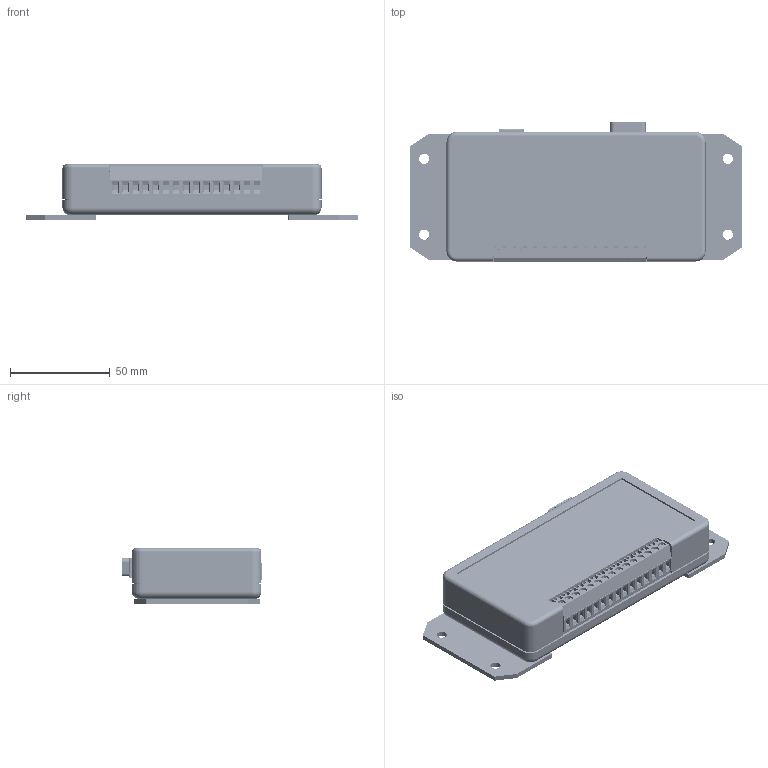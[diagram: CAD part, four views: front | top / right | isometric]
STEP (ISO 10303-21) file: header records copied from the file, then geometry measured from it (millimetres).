
FILE_DESCRIPTION (( 'STEP AP214' ), '1' );
FILE_NAME ('ADU Serial, Flange.STEP', '2018-09-24T19:31:53', ( '' ), ( '' ), 'SwSTEP 2.0', 'SolidWorks 2014', '' );
FILE_SCHEMA (( 'AUTOMOTIVE_DESIGN' ));
Length unit declared in the file: millimetre
Products named in the file (11): Mounting Bracket ADU; 94510A240_BRASS SCREW-TO-EXPAND INSERTS FOR PLASTICS_94510A240; ADU Top; USB; 182-009-113; Wieland_25.163.0353.0_CAD STEP data; 90380A106_PHILLIPS THREAD-FORMING SCREW FOR PLASTIC_90380A106; PCB; ADU Base; ADU Serial, Flange; 91420A128_METRIC FLAT HEAD PHILLIPS MACHINE SCREW_91420A128
Assembly tree (24 placements, depth 2):
  ADU Serial, Flange
    ADU Base
    PCB
    90380A106_PHILLIPS THREAD-FORMING SCREW FOR PLASTIC_90380A106  x4
    Wieland_25.163.0353.0_CAD STEP data  x5
    182-009-113
    USB
    ADU Top
    94510A240_BRASS SCREW-TO-EXPAND INSERTS FOR PLASTICS_94510A240  x4
    Mounting Bracket ADU  x2
    91420A128_METRIC FLAT HEAD PHILLIPS MACHINE SCREW_91420A128  x4
Bounding box: 166.64 x 70.35 x 28.04 mm (x, y, z)
Volume: 91415.8 mm3; surface area: 88270.7 mm2
Topology: 23 solids, 24 shells, 7119 faces, 17060 edges, 10065 vertices
Faces by surface type: bspline 3178, cylinder 1897, plane 1714, cone 290, torus 32, sphere 8
Entity records: 139112 total; most frequent: CARTESIAN_POINT 78386, ORIENTED_EDGE 13466, DIRECTION 8592, EDGE_CURVE 6737, VERTEX_POINT 4090, LINE 3220, VECTOR 3220, EDGE_LOOP 2861
